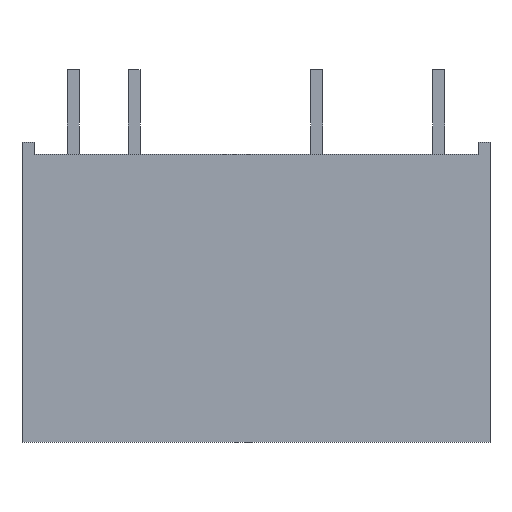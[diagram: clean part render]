
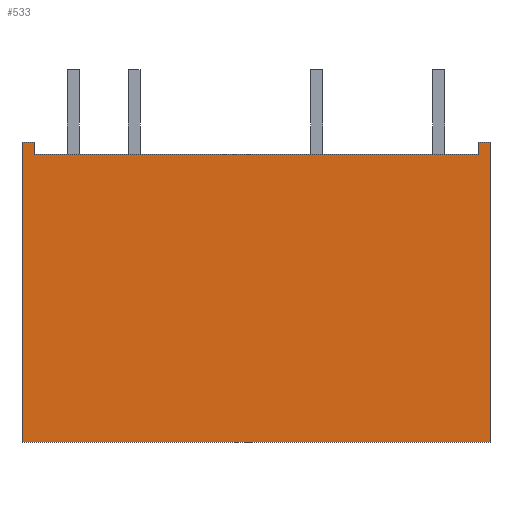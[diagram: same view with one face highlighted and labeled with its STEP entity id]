
A CAD part, front view. The second image highlights one B-rep face of the part: STEP entity #533.
In plain terms, the highlighted planar face has unit normal (0, -1, 0).
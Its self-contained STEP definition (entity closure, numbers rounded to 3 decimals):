
#68=ORIENTED_EDGE('',*,*,#174,.T.);
#69=ORIENTED_EDGE('',*,*,#202,.T.);
#70=ORIENTED_EDGE('',*,*,#184,.F.);
#71=ORIENTED_EDGE('',*,*,#188,.F.);
#72=ORIENTED_EDGE('',*,*,#198,.F.);
#73=ORIENTED_EDGE('',*,*,#195,.F.);
#74=ORIENTED_EDGE('',*,*,#193,.F.);
#75=ORIENTED_EDGE('',*,*,#203,.T.);
#174=EDGE_CURVE('',#247,#246,#294,.T.);
#184=EDGE_CURVE('',#256,#257,#304,.T.);
#188=EDGE_CURVE('',#260,#256,#308,.T.);
#193=EDGE_CURVE('',#264,#265,#313,.T.);
#195=EDGE_CURVE('',#265,#266,#315,.T.);
#198=EDGE_CURVE('',#266,#260,#318,.T.);
#202=EDGE_CURVE('',#246,#257,#322,.T.);
#203=EDGE_CURVE('',#264,#247,#323,.T.);
#246=VERTEX_POINT('',#755);
#247=VERTEX_POINT('',#757);
#256=VERTEX_POINT('',#777);
#257=VERTEX_POINT('',#778);
#260=VERTEX_POINT('',#786);
#264=VERTEX_POINT('',#795);
#265=VERTEX_POINT('',#797);
#266=VERTEX_POINT('',#801);
#294=LINE('',#756,#366);
#304=LINE('',#776,#376);
#308=LINE('',#785,#380);
#313=LINE('',#796,#385);
#315=LINE('',#800,#387);
#318=LINE('',#806,#390);
#322=LINE('',#812,#394);
#323=LINE('',#813,#395);
#366=VECTOR('',#613,1000.);
#376=VECTOR('',#625,1000.);
#380=VECTOR('',#631,1000.);
#385=VECTOR('',#638,1000.);
#387=VECTOR('',#642,1000.);
#390=VECTOR('',#647,1000.);
#394=VECTOR('',#655,1000.);
#395=VECTOR('',#656,1000.);
#439=EDGE_LOOP('',(#68,#69,#70,#71,#72,#73,#74,#75));
#473=FACE_BOUND('',#439,.T.);
#503=PLANE('',#576);
#533=ADVANCED_FACE('',(#473),#503,.F.);
#576=AXIS2_PLACEMENT_3D('',#811,#653,#654);
#613=DIRECTION('',(-1.,0.,0.));
#625=DIRECTION('',(1.,0.,0.));
#631=DIRECTION('',(0.,0.,1.));
#638=DIRECTION('',(1.,0.,0.));
#642=DIRECTION('',(0.,0.,-1.));
#647=DIRECTION('',(-1.,0.,0.));
#653=DIRECTION('',(0.,1.,0.));
#654=DIRECTION('',(0.,0.,1.));
#655=DIRECTION('',(0.,0.,1.));
#656=DIRECTION('',(0.,0.,-1.));
#755=CARTESIAN_POINT('',(-9.25,0.,7.11));
#756=CARTESIAN_POINT('',(-9.25,0.,7.11));
#757=CARTESIAN_POINT('',(9.25,0.,7.11));
#776=CARTESIAN_POINT('',(-9.75,0.,7.61));
#777=CARTESIAN_POINT('',(-9.75,0.,7.61));
#778=CARTESIAN_POINT('',(-9.25,0.,7.61));
#785=CARTESIAN_POINT('',(-9.75,0.,-4.89));
#786=CARTESIAN_POINT('',(-9.75,0.,-4.89));
#795=CARTESIAN_POINT('',(9.25,0.,7.61));
#796=CARTESIAN_POINT('',(-9.75,0.,7.61));
#797=CARTESIAN_POINT('',(9.75,0.,7.61));
#800=CARTESIAN_POINT('',(9.75,0.,-4.89));
#801=CARTESIAN_POINT('',(9.75,0.,-4.89));
#806=CARTESIAN_POINT('',(-9.75,0.,-4.89));
#811=CARTESIAN_POINT('',(-9.75,0.,7.61));
#812=CARTESIAN_POINT('',(-9.25,0.,7.61));
#813=CARTESIAN_POINT('',(9.25,0.,7.61));
